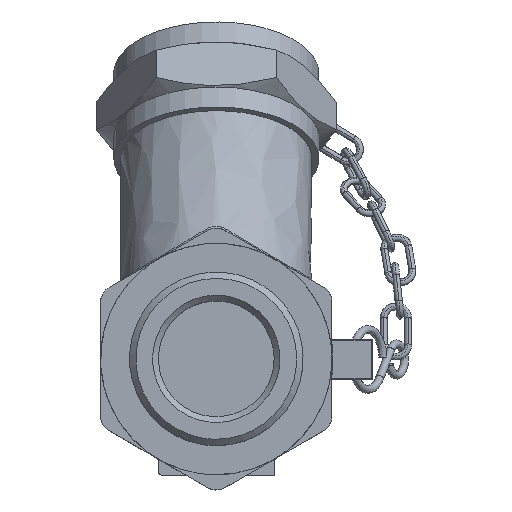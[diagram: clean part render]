
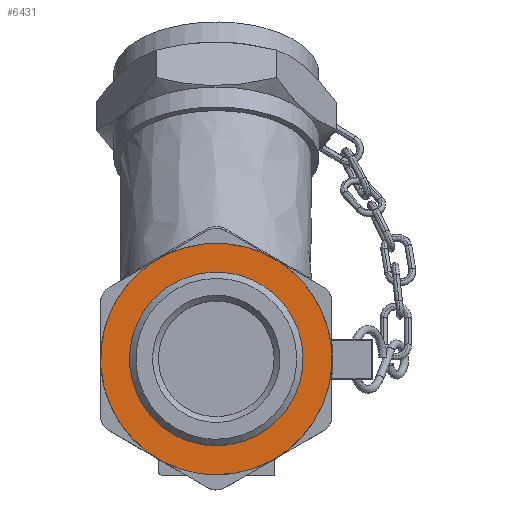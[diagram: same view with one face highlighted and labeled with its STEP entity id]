
A CAD part, top view. The second image highlights one B-rep face of the part: STEP entity #6431.
In plain terms, the highlighted free-form (B-spline) face has degree [1, 1] with [2, 2] control points.
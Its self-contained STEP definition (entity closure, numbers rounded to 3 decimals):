
#6373=CARTESIAN_POINT('V1263',(0.0,-15.0,-17.5));
#6374=VERTEX_POINT('V1263',#6373);
#6375=CARTESIAN_POINT('E239',(0.0,-15.0,-17.5));
#6376=CARTESIAN_POINT('E239',(25.981,-15.0,
   -17.5));
#6377=CARTESIAN_POINT('E239',(12.99,7.5,
   -17.5));
#6378=CARTESIAN_POINT('E239',(0.,30.0,-17.5)
   );
#6379=CARTESIAN_POINT('E239',(-12.99,7.5,
   -17.5));
#6380=CARTESIAN_POINT('E239',(-25.981,-15.0,
   -17.5));
#6381=CARTESIAN_POINT('E239',(0.0,-15.0,-17.5));
#6389=(BOUNDED_CURVE()B_SPLINE_CURVE(2,(#6375,#6376,#6377,#6378,
   #6379,#6380,#6381),.CIRCULAR_ARC.,.T.,.U.)
   B_SPLINE_CURVE_WITH_KNOTS((3,2,2,3),(0.0,51.962,
   103.923,155.885),.UNSPECIFIED.)CURVE()
   GEOMETRIC_REPRESENTATION_ITEM()RATIONAL_B_SPLINE_CURVE((1.0,
   0.5,1.0,0.5,1.0,0.5,1.0)
   )REPRESENTATION_ITEM('E239'));
#6390=EDGE_CURVE('E239',#6374,#6374,#6389,.T.);
#6402=CARTESIAN_POINT('F110',(22.0,22.0,-17.5));
#6403=CARTESIAN_POINT('F110',(-22.0,22.0,-17.5));
#6404=CARTESIAN_POINT('F110',(22.0,-22.0,-17.5));
#6405=CARTESIAN_POINT('F110',(-22.0,-22.0,-17.5));
#6406=QUASI_UNIFORM_SURFACE('F110',1,1,((#6402,#6404),(#6403,
   #6405)),.PLANE_SURF.,.F.,.F.,.U.);
#6407=CARTESIAN_POINT('V1264',(0.0,-20.0,-17.5));
#6408=VERTEX_POINT('V1264',#6407);
#6409=CARTESIAN_POINT('E241',(0.0,-20.0,-17.5));
#6410=CARTESIAN_POINT('E241',(34.641,-20.0,
   -17.5));
#6411=CARTESIAN_POINT('E241',(17.321,10.0,
   -17.5));
#6412=CARTESIAN_POINT('E241',(0.,40.0,-17.5)
   );
#6413=CARTESIAN_POINT('E241',(-17.321,10.0,
   -17.5));
#6414=CARTESIAN_POINT('E241',(-34.641,-20.0,
   -17.5));
#6415=CARTESIAN_POINT('E241',(0.0,-20.0,-17.5));
#6423=(BOUNDED_CURVE()B_SPLINE_CURVE(2,(#6409,#6410,#6411,#6412,
   #6413,#6414,#6415),.CIRCULAR_ARC.,.T.,.U.)
   B_SPLINE_CURVE_WITH_KNOTS((3,2,2,3),(0.0,0.333,
   0.667,1.0),.UNSPECIFIED.)CURVE()
   GEOMETRIC_REPRESENTATION_ITEM()RATIONAL_B_SPLINE_CURVE((1.0,
   0.5,1.0,0.5,1.0,0.5,1.0)
   )REPRESENTATION_ITEM('E241'));
#6424=EDGE_CURVE('E241',#6408,#6408,#6423,.T.);
#6425=ORIENTED_EDGE('E241',*,*,#6424,.T.);
#6426=EDGE_LOOP('F110',(#6425));
#6427=FACE_OUTER_BOUND('F110',#6426,.T.);
#6428=ORIENTED_EDGE('E239',*,*,#6390,.F.);
#6429=EDGE_LOOP('F110',(#6428));
#6430=FACE_BOUND('F110',#6429,.T.);
#6431=ADVANCED_FACE('F110',(#6427,#6430),#6406,.T.);
